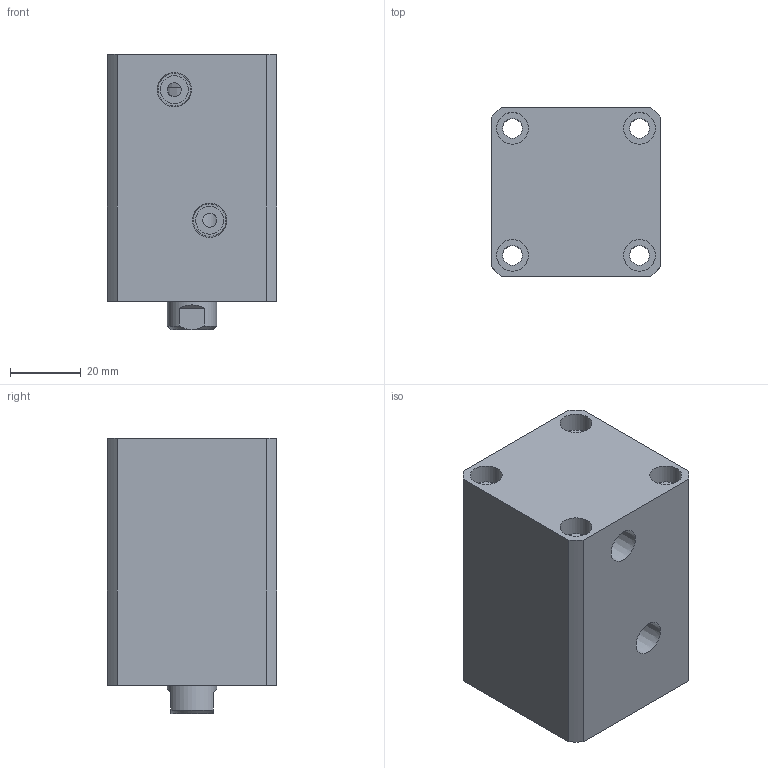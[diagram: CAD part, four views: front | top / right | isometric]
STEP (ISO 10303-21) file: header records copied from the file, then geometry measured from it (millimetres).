
FILE_DESCRIPTION(/* description */ (''),/* implementation_level */ '2;1');
FILE_NAME(/* name */ 'CHTB-sd25x25n.stp',/* time_stamp */ '2022-04-29T14:57:52+08:00',/* author */ (''),/* organization */ (''),/* preprocessor_version */ 'ST-DEVELOPER v16.7',/* originating_system */ 'SIEMENS PLM Software NX 12.0',/* authorisation */ '');
FILE_SCHEMA (('AUTOMOTIVE_DESIGN { 1 0 10303 214 3 1 1 1 }'));
Length unit declared in the file: millimetre
Products named in the file (1): chtb-sd25x25n
Bounding box: 48 x 48 x 78 mm (x, y, z)
Volume: 140595 mm3; surface area: 39244.4 mm2
Topology: 3 solids, 3 shells, 426 faces, 1127 edges, 751 vertices
Faces by surface type: plane 272, extrusion 98, cylinder 40, bspline 8, cone 7, torus 1
Full cylindrical faces by diameter (mm): 3 x2, 4 x2, 5.6 x4, 7.9 x2, 8.5 x1, 9 x8, 14 x2, 21 x2, 23 x2, 25 x5, 31 x1
Entity records: 19501 total; most frequent: CARTESIAN_POINT 7101, ORIENTED_EDGE 2152, DIRECTION 1677, EDGE_CURVE 1076, VECTOR 863, LINE 765, VERTEX_POINT 740, EDGE_LOOP 521
